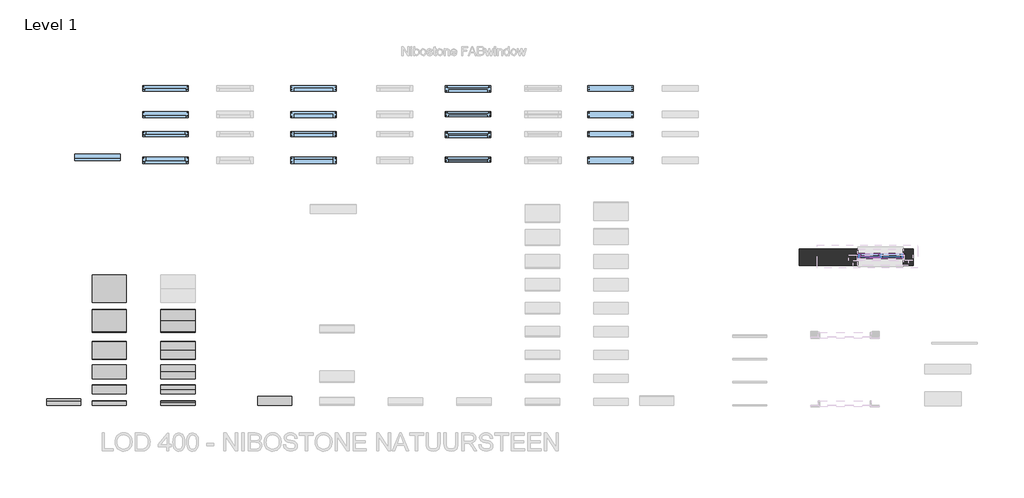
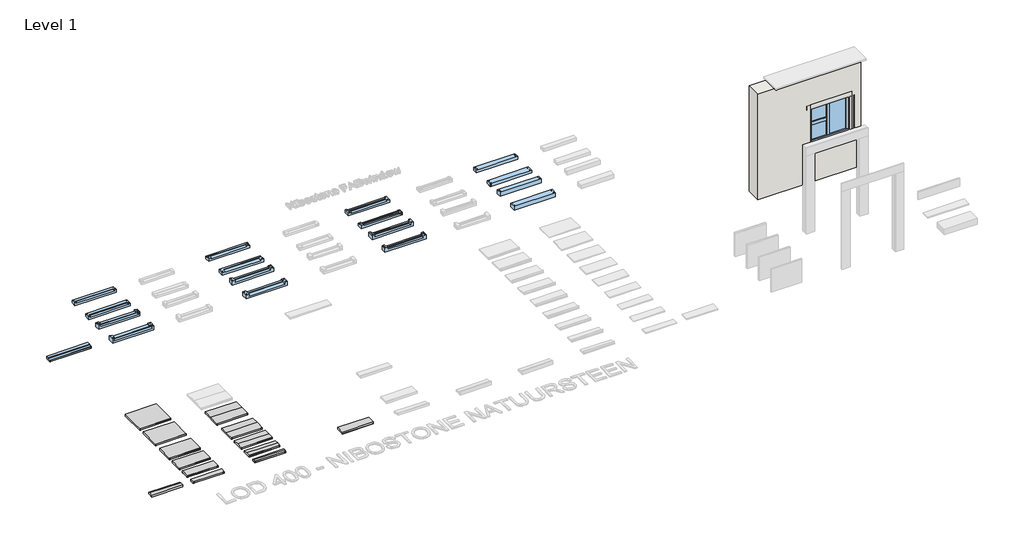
# One storey, part 1 of 4: 26 windows, 13 proxies, 1 wall.
"""IFC4 building model written with IfcOpenShell, lengths in millimetres."""

from ifc_helpers import new_model, si_unit, origin, place, context, project, spatial, faceted_brep, transform, mapped, element, save
from components import proxy_100_mm_7d0b37c2, proxy_100_mm_8bd93765, proxy_200_mm_62d64504, proxy_200_mm_1d84855f, proxy_300_mm_3181e62b, proxy_300_mm_2b8463f3, proxy_400_mm_6bae1414, proxy_400_mm_29d6a0fe, proxy_500_mm_bfa50c96, proxy_500_mm_44160a62, proxy_600_mm_7a91cd88, std_509db9f1, std_140x50_cf374a27, window_49015d95, window_36b562da, window_54dc3dba, window_d5391055, window_af69cd9d, window_68828c6e, window_9b99fbe2, window_53e58c0d, window_30_isr_hout_bd_std_b7062c2a, window_30_isr_hout_es_std_54ae1afe, window_30_isr_hout_es_std_db4e9410, window_30_isr_hout_od_std_2e931616, window_30_isr_hout_td_std_6132d90b, window_30_isr_hout_ts_std_6483f0b6, bi_51_9fc36c22, bi_57_fd359ef2, blok_114_70_3e13b644, blok_139_70_7db4ad4a, bu_67_48a63875, bu_72_92419f8d, bu_72_ce7b531b, da_51_ab8a1172, da_57_4bec37a1, glas_42e74a4b, glas_7a6249c6, glas_ab2ed760

model = new_model("IFC4")

# Units and contexts
model_context = context("Model", 3, world=origin())
ifc_project = project(units=[si_unit("LENGTHUNIT", "METRE", prefix="MILLI")], contexts=[model_context])

# Site, building, storey
site = spatial("IfcSite", under=ifc_project)
building = spatial("IfcBuilding", under=site)
storey = spatial("IfcBuildingStorey", under=building, Name="Level 1", Elevation=0.0)

# Proxies
placement = place(None, origin())
proxy_100_mm_shape = proxy_100_mm_7d0b37c2(model_context)
element("IfcBuildingElementProxy", 1, Name="400_35_NS_afdekker_tweezijdig_afwaterend : 100 mm", ObjectType="400_35_NS_afdekker_tweezijdig_afwaterend : 100 mm", at=placement, inside=storey, context=model_context, shape_type="MappedRepresentation", body=[
    mapped(proxy_100_mm_shape, transform((8898.8137943, 10001.8708366, 0.0), x_axis=(1.0, 0.0, 0.0), y_axis=(0.0, 1.0, 0.0), z_axis=(0.0, 0.0, 1.0))),
])
proxy_100_mm_2_shape = proxy_100_mm_8bd93765(model_context)
element("IfcBuildingElementProxy", 2, Name="400_35_NS_afdekker_éénzijdig_afwaterend : 100 mm", ObjectType="400_35_NS_afdekker_éénzijdig_afwaterend : 100 mm", at=placement, inside=storey, context=model_context, shape_type="MappedRepresentation", body=[
    mapped(proxy_100_mm_2_shape, transform((7398.8137943, 10001.8708366, 0.0), x_axis=(1.0, 0.0, 0.0), y_axis=(0.0, 1.0, 0.0), z_axis=(0.0, 0.0, 1.0))),
])
proxy_200_mm_shape = proxy_200_mm_62d64504(model_context)
element("IfcBuildingElementProxy", 3, Name="400_35_NS_afdekker_tweezijdig_afwaterend : 200 mm", ObjectType="400_35_NS_afdekker_tweezijdig_afwaterend : 200 mm", at=placement, inside=storey, context=model_context, shape_type="MappedRepresentation", body=[
    mapped(proxy_200_mm_shape, transform((8898.8137943, 10251.8708366, 0.0), x_axis=(1.0, 0.0, 0.0), y_axis=(0.0, 1.0, 0.0), z_axis=(0.0, 0.0, 1.0))),
])
proxy_200_mm_2_shape = proxy_200_mm_1d84855f(model_context)
element("IfcBuildingElementProxy", 4, Name="400_35_NS_afdekker_éénzijdig_afwaterend : 200 mm", ObjectType="400_35_NS_afdekker_éénzijdig_afwaterend : 200 mm", at=placement, inside=storey, context=model_context, shape_type="MappedRepresentation", body=[
    mapped(proxy_200_mm_2_shape, transform((7398.8137943, 10251.8708366, 0.0), x_axis=(1.0, 0.0, 0.0), y_axis=(0.0, 1.0, 0.0), z_axis=(0.0, 0.0, 1.0))),
])
proxy_300_mm_shape = proxy_300_mm_3181e62b(model_context)
element("IfcBuildingElementProxy", 5, Name="400_35_NS_afdekker_tweezijdig_afwaterend : 300 mm", ObjectType="400_35_NS_afdekker_tweezijdig_afwaterend : 300 mm", at=placement, inside=storey, context=model_context, shape_type="MappedRepresentation", body=[
    mapped(proxy_300_mm_shape, transform((8898.8137943, 10581.8708366, 0.0), x_axis=(1.0, 0.0, 0.0), y_axis=(0.0, 1.0, 0.0), z_axis=(0.0, 0.0, 1.0))),
])
proxy_300_mm_2_shape = proxy_300_mm_2b8463f3(model_context)
element("IfcBuildingElementProxy", 6, Name="400_35_NS_afdekker_éénzijdig_afwaterend : 300 mm", ObjectType="400_35_NS_afdekker_éénzijdig_afwaterend : 300 mm", at=placement, inside=storey, context=model_context, shape_type="MappedRepresentation", body=[
    mapped(proxy_300_mm_2_shape, transform((7398.8137943, 10581.8708366, 0.0), x_axis=(1.0, 0.0, 0.0), y_axis=(0.0, 1.0, 0.0), z_axis=(0.0, 0.0, 1.0))),
])
proxy_400_mm_shape = proxy_400_mm_6bae1414(model_context)
element("IfcBuildingElementProxy", 7, Name="400_35_NS_afdekker_tweezijdig_afwaterend : 400 mm", ObjectType="400_35_NS_afdekker_tweezijdig_afwaterend : 400 mm", at=placement, inside=storey, context=model_context, shape_type="MappedRepresentation", body=[
    mapped(proxy_400_mm_shape, transform((8898.8137943, 11001.8708366, 0.0), x_axis=(1.0, 0.0, 0.0), y_axis=(0.0, 1.0, 0.0), z_axis=(0.0, 0.0, 1.0))),
])
proxy_400_mm_2_shape = proxy_400_mm_29d6a0fe(model_context)
element("IfcBuildingElementProxy", 8, Name="400_35_NS_afdekker_éénzijdig_afwaterend : 400 mm", ObjectType="400_35_NS_afdekker_éénzijdig_afwaterend : 400 mm", at=placement, inside=storey, context=model_context, shape_type="MappedRepresentation", body=[
    mapped(proxy_400_mm_2_shape, transform((7398.8137943, 11001.8708366, 0.0), x_axis=(1.0, 0.0, 0.0), y_axis=(0.0, 1.0, 0.0), z_axis=(0.0, 0.0, 1.0))),
])
proxy_500_mm_shape = proxy_500_mm_bfa50c96(model_context)
element("IfcBuildingElementProxy", 9, Name="400_35_NS_afdekker_tweezijdig_afwaterend : 500 mm", ObjectType="400_35_NS_afdekker_tweezijdig_afwaterend : 500 mm", at=placement, inside=storey, context=model_context, shape_type="MappedRepresentation", body=[
    mapped(proxy_500_mm_shape, transform((8898.8137943, 11601.8708366, 0.0), x_axis=(1.0, 0.0, 0.0), y_axis=(0.0, 1.0, 0.0), z_axis=(0.0, 0.0, 1.0))),
])
proxy_500_mm_2_shape = proxy_500_mm_44160a62(model_context)
element("IfcBuildingElementProxy", 10, Name="400_35_NS_afdekker_éénzijdig_afwaterend : 500 mm", ObjectType="400_35_NS_afdekker_éénzijdig_afwaterend : 500 mm", at=placement, inside=storey, context=model_context, shape_type="MappedRepresentation", body=[
    mapped(proxy_500_mm_2_shape, transform((7398.8137943, 11601.8708366, 0.0), x_axis=(1.0, 0.0, 0.0), y_axis=(0.0, 1.0, 0.0), z_axis=(0.0, 0.0, 1.0))),
])
proxy_600_mm_shape = proxy_600_mm_7a91cd88(model_context)
element("IfcBuildingElementProxy", 11, Name="400_35_NS_afdekker_éénzijdig_afwaterend : 600 mm", ObjectType="400_35_NS_afdekker_éénzijdig_afwaterend : 600 mm", at=placement, inside=storey, context=model_context, shape_type="MappedRepresentation", body=[
    mapped(proxy_600_mm_shape, transform((7398.8137943, 12251.8708366, 0.0), x_axis=(1.0, 0.0, 0.0), y_axis=(0.0, 1.0, 0.0), z_axis=(0.0, 0.0, 1.0))),
])
std_shape = std_509db9f1(model_context)
element("IfcBuildingElementProxy", 12, Name="400_35_NS_vlak_weerszijde_waterhol : std", ObjectType="400_35_NS_vlak_weerszijde_waterhol : std", at=placement, inside=storey, context=model_context, shape_type="MappedRepresentation", body=[
    mapped(std_shape, transform((11020.0, 10000.0, 0.0), x_axis=(1.0, 0.0, 0.0), y_axis=(0.0, 1.0, 0.0), z_axis=(0.0, 0.0, 1.0))),
])
std_140x50_shape = std_140x50_cf374a27(model_context)
element("IfcBuildingElementProxy", 13, Name="400_35_NS_spekband_140x50 : std_140x50", ObjectType="400_35_NS_spekband_140x50 : std_140x50", at=placement, inside=storey, context=model_context, shape_type="MappedRepresentation", body=[
    mapped(std_140x50_shape, transform((6398.8137943, 10001.8708366, 0.0), x_axis=(1.0, 0.0, 0.0), y_axis=(0.0, 1.0, 0.0), z_axis=(0.0, 0.0, 1.0))),
])

# Wall
element("IfcWall", 14, ObjectType="300_21_spouwmuur_100-50-110_100(mew+lu+iso+kzs)", at=placement, inside=storey, context=model_context, shape_type="Brep", body=[
    faceted_brep([(22494.8429665, 13067.3586374, 0.0), (24994.8429665, 13067.3586374, 0.0), (24994.8429665, 13067.3586374, 2707.1148791), (22494.8429665, 13067.3586374, 2707.1148791), (23781.0611281, 13067.3586374, 886.8050157), (23781.0611281, 13067.3586374, 1986.8050157), (24781.0611281, 13067.3586374, 1986.8050157), (24781.0611281, 13067.3586374, 886.8050157), (24994.8429665, 13427.3586374, 0.0), (22494.8429665, 13427.3586374, 0.0), (22494.8429665, 13427.3586374, 2707.1148791), (24994.8429665, 13427.3586374, 2707.1148791), (23781.0611281, 13427.3586374, 2086.8050157), (23781.0611281, 13427.3586374, 811.8050157), (24781.0611281, 13427.3586374, 811.8050157), (24781.0611281, 13427.3586374, 2086.8050157), (23781.0611281, 13327.3586374, 2086.8050157), (24781.0611281, 13327.3586374, 2086.8050157), (24781.0611281, 13327.3586374, 1936.8050157), (23781.0611281, 13327.3586374, 1936.8050157), (24781.0611281, 13327.3586374, 811.8050157), (23781.0611281, 13327.3586374, 811.8050157), (23781.0611281, 13327.3586374, 836.8050157), (24781.0611281, 13327.3586374, 836.8050157), (24781.0611281, 13167.3586374, 1986.8050157), (23781.0611281, 13167.3586374, 1986.8050157), (23781.0611281, 13167.3586374, 1936.8050157), (24781.0611281, 13167.3586374, 1936.8050157), (23781.0611281, 13167.3586374, 886.8050157), (24781.0611281, 13167.3586374, 886.8050157), (24831.0611281, 13167.3586374, 1936.8050157), (24831.0611281, 13167.3586374, 836.8050157), (23731.0611281, 13167.3586374, 836.8050157), (23731.0611281, 13167.3586374, 1936.8050157), (23731.0611281, 13327.3586374, 1936.8050157), (23731.0611281, 13327.3586374, 836.8050157), (24831.0611281, 13327.3586374, 836.8050157), (24831.0611281, 13327.3586374, 1936.8050157)], [[[0, 1, 2, 3], [4, 5, 6, 7]], [[8, 9, 10, 11], [12, 13, 14, 15]], [[1, 0, 9, 8]], [[2, 1, 8, 11]], [[3, 2, 11, 10]], [[0, 3, 10, 9]], [[16, 17, 18, 19]], [[20, 21, 22, 23]], [[16, 19, 22, 21, 13, 12]], [[21, 20, 14, 13]], [[18, 17, 15, 14, 20, 23]], [[17, 16, 12, 15]], [[24, 25, 26, 27]], [[26, 25, 5, 4, 28]], [[28, 4, 7, 29]], [[24, 27, 29, 7, 6]], [[25, 24, 6, 5]], [[26, 28, 29, 27, 30, 31, 32, 33]], [[22, 19, 34, 35]], [[18, 23, 36, 37]], [[33, 32, 35, 34]], [[23, 22, 35, 32, 31, 36]], [[31, 30, 37, 36]], [[19, 18, 37, 30, 27, 26, 33, 34]]]),
])

# Windows
window_shape = window_49015d95(model_context)
element("IfcWindow", 15, ObjectType="30_NS_BLOk : BLOK-114/100", at=placement, inside=storey, context=model_context, shape_type="MappedRepresentation", body=[
    mapped(window_shape, transform((17870.0, 16000.0, 0.0), x_axis=(1.0, 0.0, 0.0), y_axis=(0.0, 1.0, 0.0), z_axis=(0.0, 0.0, 1.0))),
])
window_2_shape = window_36b562da(model_context)
element("IfcWindow", 16, ObjectType="30_NS_BLOk : BLOK-139/100", at=placement, inside=storey, context=model_context, shape_type="MappedRepresentation", body=[
    mapped(window_2_shape, transform((17870.0, 15438.3575088, 0.0), x_axis=(1.0, 0.0, 0.0), y_axis=(0.0, 1.0, 0.0), z_axis=(0.0, 0.0, 1.0))),
])
window_3_shape = window_54dc3dba(model_context)
element("IfcWindow", 17, ObjectType="30_NS_BU_67-72 : BU-67_neut_30", at=placement, inside=storey, context=model_context, shape_type="MappedRepresentation", body=[
    mapped(window_3_shape, transform((8127.5152183, 16000.0, 0.0), x_axis=(1.0, 0.0, 0.0), y_axis=(0.0, 1.0, 0.0), z_axis=(0.0, 0.0, 1.0))),
])
window_4_shape = window_d5391055(model_context)
element("IfcWindow", 18, ObjectType="30_NS_BU_67-72 : BU-72_neut30", at=placement, inside=storey, context=model_context, shape_type="MappedRepresentation", body=[
    mapped(window_4_shape, transform((8127.5152183, 15438.3575088, 0.0), x_axis=(1.0, 0.0, 0.0), y_axis=(0.0, 1.0, 0.0), z_axis=(0.0, 0.0, 1.0))),
])
window_5_shape = window_af69cd9d(model_context)
element("IfcWindow", 19, ObjectType="30_NS_BI_51-57 : BI-51_neut30", at=placement, inside=storey, context=model_context, shape_type="MappedRepresentation", body=[
    mapped(window_5_shape, transform((11370.0, 16000.0, 0.0), x_axis=(1.0, 0.0, 0.0), y_axis=(0.0, 1.0, 0.0), z_axis=(0.0, 0.0, 1.0))),
])
window_6_shape = window_68828c6e(model_context)
element("IfcWindow", 20, ObjectType="30_NS_BI_51-57 : BI-57_neut30", at=placement, inside=storey, context=model_context, shape_type="MappedRepresentation", body=[
    mapped(window_6_shape, transform((11370.0, 15438.3575088, 0.0), x_axis=(1.0, 0.0, 0.0), y_axis=(0.0, 1.0, 0.0), z_axis=(0.0, 0.0, 1.0))),
])
window_7_shape = window_9b99fbe2(model_context)
element("IfcWindow", 21, ObjectType="30_NS_DA_51-57 : DA-57_neut30", at=placement, inside=storey, context=model_context, shape_type="MappedRepresentation", body=[
    mapped(window_7_shape, transform((14750.0, 16000.0, 0.0), x_axis=(1.0, 0.0, 0.0), y_axis=(0.0, 1.0, 0.0), z_axis=(0.0, 0.0, 1.0))),
])
window_8_shape = window_53e58c0d(model_context)
element("IfcWindow", 22, ObjectType="30_NS_DA_51-57 : DA-51_neut30", at=placement, inside=storey, context=model_context, shape_type="MappedRepresentation", body=[
    mapped(window_8_shape, transform((14750.0, 15438.3575088, 0.0), x_axis=(1.0, 0.0, 0.0), y_axis=(0.0, 1.0, 0.0), z_axis=(0.0, 0.0, 1.0))),
])
window_30_isr_hout_bd_std_shape = window_30_isr_hout_bd_std_b7062c2a(model_context)
element("IfcWindow", 23, ObjectType="30_ISR_hout_BD : std", at=placement, inside=storey, context=model_context, shape_type="MappedRepresentation", body=[
    mapped(window_30_isr_hout_bd_std_shape, transform((23781.0611281, 13327.3586374, 1886.8050157), x_axis=(1.0, 0.0, 0.0), y_axis=(0.0, 1.0, 0.0), z_axis=(0.0, 0.0, 1.0))),
])
window_30_isr_hout_es_std_shape = window_30_isr_hout_es_std_54ae1afe(model_context)
element("IfcWindow", 24, ObjectType="30_ISR_hout_ES : std", at=placement, inside=storey, context=model_context, shape_type="MappedRepresentation", body=[
    mapped(window_30_isr_hout_es_std_shape, transform((23781.0611281, 13327.3586374, 871.8050157), x_axis=(1.0, 0.0, 0.0), y_axis=(0.0, 1.0, 0.0), z_axis=(0.0, 0.0, 1.0))),
])
window_30_isr_hout_es_std_2_shape = window_30_isr_hout_es_std_db4e9410(model_context)
element("IfcWindow", 25, ObjectType="30_ISR_hout_ES : std", at=placement, inside=storey, context=model_context, shape_type="MappedRepresentation", body=[
    mapped(window_30_isr_hout_es_std_2_shape, transform((24781.0611281, 13327.3586374, 871.8050157), x_axis=(-1.0, 0.0, 0.0), y_axis=(0.0, -1.0, 0.0), z_axis=(0.0, 0.0, 1.0))),
])
window_30_isr_hout_od_std_shape = window_30_isr_hout_od_std_2e931616(model_context)
element("IfcWindow", 26, ObjectType="30_ISR_hout_OD : std", at=placement, inside=storey, context=model_context, shape_type="MappedRepresentation", body=[
    mapped(window_30_isr_hout_od_std_shape, transform((23781.0611281, 13213.3586374, 886.8050157), x_axis=(1.0, 0.0, 0.0), y_axis=(0.0, 1.0, 0.0), z_axis=(0.0, 0.0, 1.0))),
])
window_30_isr_hout_td_std_shape = window_30_isr_hout_td_std_6132d90b(model_context)
element("IfcWindow", 27, ObjectType="30_ISR_hout_TD : std", at=placement, inside=storey, context=model_context, shape_type="MappedRepresentation", body=[
    mapped(window_30_isr_hout_td_std_shape, transform((23848.0611281, 13327.3586374, 1326.8050157), x_axis=(1.0, 0.0, 0.0), y_axis=(0.0, 1.0, 0.0), z_axis=(0.0, 0.0, 1.0))),
])
window_30_isr_hout_ts_std_shape = window_30_isr_hout_ts_std_6483f0b6(model_context)
element("IfcWindow", 28, ObjectType="30_ISR_hout_TS : std", at=placement, inside=storey, context=model_context, shape_type="MappedRepresentation", body=[
    mapped(window_30_isr_hout_ts_std_shape, transform((24247.5611281, 13327.3586374, 879.8050157), x_axis=(1.0, 0.0, 0.0), y_axis=(0.0, 1.0, 0.0), z_axis=(0.0, 0.0, 1.0))),
])
bi_51_shape = bi_51_9fc36c22(model_context)
element("IfcWindow", 29, ObjectType="30_NS_BI_51-57 : BI-51", at=placement, inside=storey, context=model_context, shape_type="MappedRepresentation", body=[
    mapped(bi_51_shape, transform((11370.0, 17000.0, 0.0), x_axis=(1.0, 0.0, 0.0), y_axis=(0.0, 1.0, 0.0), z_axis=(0.0, 0.0, 1.0))),
])
bi_57_shape = bi_57_fd359ef2(model_context)
element("IfcWindow", 30, ObjectType="30_NS_BI_51-57 : BI-57", at=placement, inside=storey, context=model_context, shape_type="MappedRepresentation", body=[
    mapped(bi_57_shape, transform((11370.0, 16438.3575088, 0.0), x_axis=(1.0, 0.0, 0.0), y_axis=(0.0, 1.0, 0.0), z_axis=(0.0, 0.0, 1.0))),
])
blok_114_70_shape = blok_114_70_3e13b644(model_context)
element("IfcWindow", 31, ObjectType="30_NS_BLOk : BLOK-114/70", at=placement, inside=storey, context=model_context, shape_type="MappedRepresentation", body=[
    mapped(blok_114_70_shape, transform((17870.0, 17000.0, 0.0), x_axis=(1.0, 0.0, 0.0), y_axis=(0.0, 1.0, 0.0), z_axis=(0.0, 0.0, 1.0))),
])
blok_139_70_shape = blok_139_70_7db4ad4a(model_context)
element("IfcWindow", 32, ObjectType="30_NS_BLOk : BLOK-139/70", at=placement, inside=storey, context=model_context, shape_type="MappedRepresentation", body=[
    mapped(blok_139_70_shape, transform((17870.0, 16438.3575088, 0.0), x_axis=(1.0, 0.0, 0.0), y_axis=(0.0, 1.0, 0.0), z_axis=(0.0, 0.0, 1.0))),
])
bu_67_shape = bu_67_48a63875(model_context)
element("IfcWindow", 33, ObjectType="30_NS_BU_67-72 : BU-67", at=placement, inside=storey, context=model_context, shape_type="MappedRepresentation", body=[
    mapped(bu_67_shape, transform((8127.5152183, 17000.0, 0.0), x_axis=(1.0, 0.0, 0.0), y_axis=(0.0, 1.0, 0.0), z_axis=(0.0, 0.0, 1.0))),
])
bu_72_shape = bu_72_92419f8d(model_context)
element("IfcWindow", 34, ObjectType="30_NS_BU_67-72 : BU-72", at=placement, inside=storey, context=model_context, shape_type="MappedRepresentation", body=[
    mapped(bu_72_shape, transform((8127.5152183, 16438.3575088, 0.0), x_axis=(1.0, 0.0, 0.0), y_axis=(0.0, 1.0, 0.0), z_axis=(0.0, 0.0, 1.0))),
])
bu_72_2_shape = bu_72_ce7b531b(model_context)
element("IfcWindow", 35, ObjectType="30_NS_BU_dorpel : BU-72", at=placement, inside=storey, context=model_context, shape_type="MappedRepresentation", body=[
    mapped(bu_72_2_shape, transform((6639.1152719, 15500.0, 0.0), x_axis=(1.0, 0.0, 0.0), y_axis=(0.0, 1.0, 0.0), z_axis=(0.0, 0.0, 1.0))),
])
da_51_shape = da_51_ab8a1172(model_context)
element("IfcWindow", 36, ObjectType="30_NS_DA_51-57 : DA-51", at=placement, inside=storey, context=model_context, shape_type="MappedRepresentation", body=[
    mapped(da_51_shape, transform((14750.0, 16438.3575088, 0.0), x_axis=(1.0, 0.0, 0.0), y_axis=(0.0, 1.0, 0.0), z_axis=(0.0, 0.0, 1.0))),
])
da_57_shape = da_57_4bec37a1(model_context)
element("IfcWindow", 37, ObjectType="30_NS_DA_51-57 : DA-57", at=placement, inside=storey, context=model_context, shape_type="MappedRepresentation", body=[
    mapped(da_57_shape, transform((14750.0, 17000.0, 0.0), x_axis=(1.0, 0.0, 0.0), y_axis=(0.0, 1.0, 0.0), z_axis=(0.0, 0.0, 1.0))),
])
glas_shape = glas_42e74a4b(model_context)
element("IfcWindow", 38, ObjectType="300_31_ISR_vlakvulling : glas", at=placement, inside=storey, context=model_context, shape_type="MappedRepresentation", body=[
    mapped(glas_shape, transform((24042.0611281, 13223.0040148, 953.8050157), x_axis=(1.0, 0.0, 0.0), y_axis=(0.0, 1.0, 0.0), z_axis=(0.0, 0.0, 1.0))),
])
glas_2_shape = glas_7a6249c6(model_context)
element("IfcWindow", 39, ObjectType="300_31_ISR_vlakvulling : glas", at=placement, inside=storey, context=model_context, shape_type="MappedRepresentation", body=[
    mapped(glas_2_shape, transform((24520.0611281, 13223.0040148, 953.8050157), x_axis=(1.0, 0.0, 0.0), y_axis=(0.0, 1.0, 0.0), z_axis=(0.0, 0.0, 1.0))),
])
glas_3_shape = glas_ab2ed760(model_context)
element("IfcWindow", 40, ObjectType="300_31_ISR_vlakvulling : glas", at=placement, inside=storey, context=model_context, shape_type="MappedRepresentation", body=[
    mapped(glas_3_shape, transform((24042.0611281, 13223.0040148, 1416.8050157), x_axis=(1.0, 0.0, 0.0), y_axis=(0.0, 1.0, 0.0), z_axis=(0.0, 0.0, 1.0))),
])

save(model, "model.ifc")
